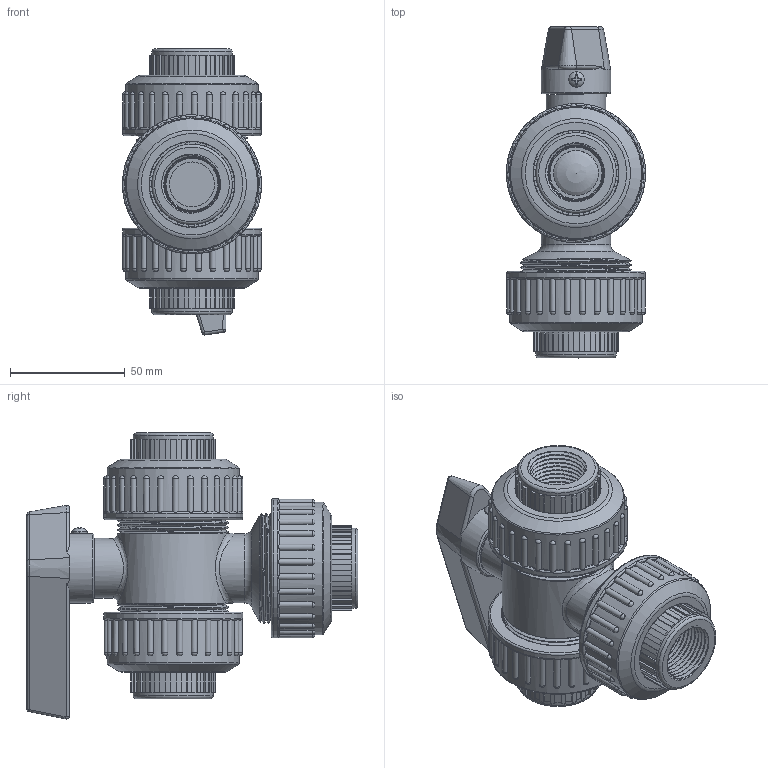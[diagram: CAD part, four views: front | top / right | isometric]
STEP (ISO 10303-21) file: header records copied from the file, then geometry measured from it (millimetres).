
FILE_DESCRIPTION(/* description */ ('Alibre Inc.'),/* implementation_level */ '2;1');
FILE_NAME(/* name */ 'export0',/* time_stamp */ '2017-08-29T10:07:02-04:00',/* author */ (''),/* organization */ (''),/* preprocessor_version */ 'ST-DEVELOPER v14',/* originating_system */ 'Alibre',/* authorisation */ '');
FILE_SCHEMA (('CONFIG_CONTROL_DESIGN'));
Length unit declared in the file: inch
Products named in the file (12): ID_1; ID_2; ID_3; ID_4; ID_5; ID_6; ID_7; ID_8
Bounding box: 60.68 x 144.67 x 124.68 mm (x, y, z)
Volume: 276921.3 mm3; surface area: 141936.8 mm2
Topology: 18 solids, 18 shells, 1620 faces, 4322 edges, 2780 vertices
Faces by surface type: plane 938, cylinder 339, torus 123, bspline 112, cone 99, sphere 9
Full cylindrical faces by diameter (mm): 12.192 x1, 12.498 x1, 14.224 x1, 14.275 x2, 19.05 x2, 19.558 x3, 19.812 x4, 20.066 x1, 22.352 x2, 22.606 x1, 25.654 x4, 26.162 x1, 26.67 x1, 29.972 x2, 30.226 x3, 32.258 x1, 35.052 x3, 37.084 x3, 37.338 x1, 37.592 x5, 40.132 x1, 45.72 x3, 57.912 x3, 60.706 x3
Entity records: 74477 total; most frequent: CARTESIAN_POINT 53924, ORIENTED_EDGE 4636, DIRECTION 2977, EDGE_CURVE 2290, VERTEX_POINT 1522, AXIS2_PLACEMENT_3D 1142, VECTOR 1111, LINE 1111
